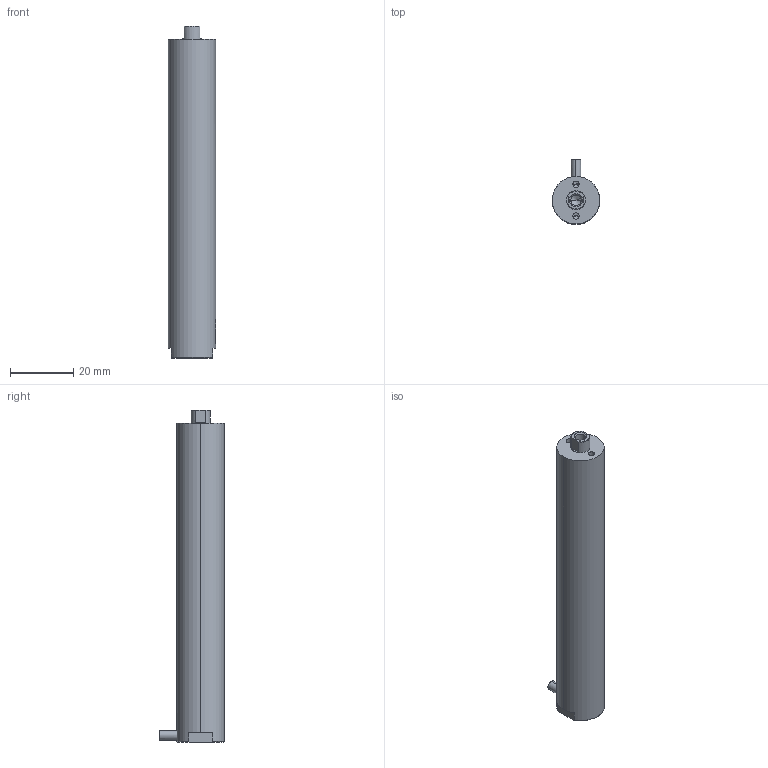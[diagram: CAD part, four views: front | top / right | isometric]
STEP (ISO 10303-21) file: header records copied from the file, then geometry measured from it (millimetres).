
FILE_DESCRIPTION (( 'STEP AP203' ), '1' );
FILE_NAME ('100VS15囀蹟恇.STEP', '2024-11-30T06:24:53', ( 'daohangxitong.com' ), ( 'daohangxitong.com' ), 'SwSTEP 2.0', 'SolidWorks 2016', '' );
FILE_SCHEMA (( 'CONFIG_CONTROL_DESIGN' ));
Length unit declared in the file: millimetre
Products named in the file (1): 100VS15囀蹟恇
Bounding box: 15 x 20.5 x 104.8 mm (x, y, z)
Volume: 17793.5 mm3; surface area: 5338.7 mm2
Topology: 1 solids, 1 shells, 942 faces, 2706 edges, 1796 vertices
Faces by surface type: bspline 827, cylinder 51, plane 48, cone 16
Entity records: 50633 total; most frequent: CARTESIAN_POINT 33340, ORIENTED_EDGE 5396, EDGE_CURVE 2698, B_SPLINE_CURVE_WITH_KNOTS 2534, VERTEX_POINT 1796, EDGE_LOOP 980, ADVANCED_FACE 942, FACE_OUTER_BOUND 942
